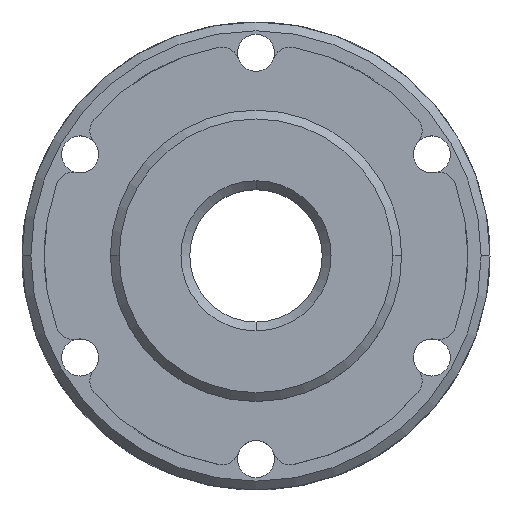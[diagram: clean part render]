
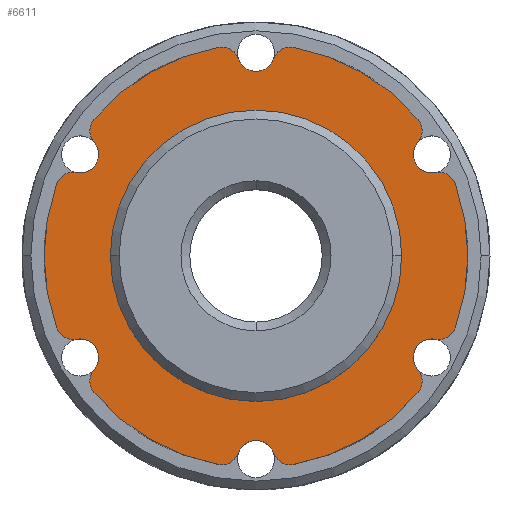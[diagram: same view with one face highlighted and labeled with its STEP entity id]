
A CAD part, top view. The second image highlights one B-rep face of the part: STEP entity #6611.
In plain terms, the highlighted planar face has unit normal (0, 0, 1).
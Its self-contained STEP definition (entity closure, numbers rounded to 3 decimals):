
#1884=CARTESIAN_POINT('',(0.,0.,21.));
#1885=DIRECTION('',(0.,0.,1.));
#1886=DIRECTION('',(1.,0.,0.));
#1887=AXIS2_PLACEMENT_3D('',#1884,#1885,#1886);
#1892=CARTESIAN_POINT('',(0.,0.,21.));
#1893=DIRECTION('',(0.,0.,1.));
#1894=DIRECTION('',(-1.,0.,0.));
#1895=AXIS2_PLACEMENT_3D('',#1892,#1893,#1894);
#1900=CARTESIAN_POINT('',(-20.692,7.474,21.));
#1901=DIRECTION('',(0.,0.,1.));
#1902=DIRECTION('',(0.189,0.982,0.));
#1903=AXIS2_PLACEMENT_3D('',#1900,#1901,#1902);
#1908=CARTESIAN_POINT('',(-19.919,11.5,21.));
#1909=DIRECTION('',(0.,0.,-1.));
#1910=DIRECTION('',(0.756,0.654,0.));
#1911=AXIS2_PLACEMENT_3D('',#1908,#1909,#1910);
#1916=CARTESIAN_POINT('',(-16.818,14.183,21.));
#1917=DIRECTION('',(0.,0.,1.));
#1918=DIRECTION('',(-0.764,0.645,0.));
#1919=AXIS2_PLACEMENT_3D('',#1916,#1917,#1918);
#1924=CARTESIAN_POINT('',(-3.874,21.656,21.));
#1925=DIRECTION('',(0.,0.,1.));
#1926=DIRECTION('',(0.945,0.328,0.));
#1927=AXIS2_PLACEMENT_3D('',#1924,#1925,#1926);
#1932=CARTESIAN_POINT('',(0.,23.,21.));
#1933=DIRECTION('',(0.,0.,-1.));
#1934=DIRECTION('',(0.945,-0.328,0.));
#1935=AXIS2_PLACEMENT_3D('',#1932,#1933,#1934);
#1940=CARTESIAN_POINT('',(3.874,21.656,21.));
#1941=DIRECTION('',(0.,0.,1.));
#1942=DIRECTION('',(0.176,0.984,0.));
#1943=AXIS2_PLACEMENT_3D('',#1940,#1941,#1942);
#1948=CARTESIAN_POINT('',(16.818,14.183,21.));
#1949=DIRECTION('',(0.,0.,1.));
#1950=DIRECTION('',(0.756,-0.654,0.));
#1951=AXIS2_PLACEMENT_3D('',#1948,#1949,#1950);
#1956=CARTESIAN_POINT('',(19.919,11.5,21.));
#1957=DIRECTION('',(0.,0.,-1.));
#1958=DIRECTION('',(0.189,-0.982,0.));
#1959=AXIS2_PLACEMENT_3D('',#1956,#1957,#1958);
#1964=CARTESIAN_POINT('',(20.692,7.474,21.));
#1965=DIRECTION('',(0.,0.,1.));
#1966=DIRECTION('',(0.941,0.34,0.));
#1967=AXIS2_PLACEMENT_3D('',#1964,#1965,#1966);
#1972=CARTESIAN_POINT('',(20.692,-7.474,21.));
#1973=DIRECTION('',(0.,0.,1.));
#1974=DIRECTION('',(-0.189,-0.982,0.));
#1975=AXIS2_PLACEMENT_3D('',#1972,#1973,#1974);
#1980=CARTESIAN_POINT('',(19.919,-11.5,21.));
#1981=DIRECTION('',(0.,0.,-1.));
#1982=DIRECTION('',(-0.756,-0.654,0.));
#1983=AXIS2_PLACEMENT_3D('',#1980,#1981,#1982);
#1988=CARTESIAN_POINT('',(16.818,-14.183,21.));
#1989=DIRECTION('',(0.,0.,1.));
#1990=DIRECTION('',(0.764,-0.645,0.));
#1991=AXIS2_PLACEMENT_3D('',#1988,#1989,#1990);
#1996=CARTESIAN_POINT('',(3.874,-21.656,21.));
#1997=DIRECTION('',(0.,0.,1.));
#1998=DIRECTION('',(-0.945,-0.328,0.));
#1999=AXIS2_PLACEMENT_3D('',#1996,#1997,#1998);
#2004=CARTESIAN_POINT('',(0.,-23.,21.));
#2005=DIRECTION('',(0.,0.,-1.));
#2006=DIRECTION('',(-0.945,0.328,0.));
#2007=AXIS2_PLACEMENT_3D('',#2004,#2005,#2006);
#2012=CARTESIAN_POINT('',(-3.874,-21.656,21.));
#2013=DIRECTION('',(0.,0.,1.));
#2014=DIRECTION('',(-0.176,-0.984,0.));
#2015=AXIS2_PLACEMENT_3D('',#2012,#2013,#2014);
#2020=CARTESIAN_POINT('',(-16.818,-14.183,21.));
#2021=DIRECTION('',(0.,0.,1.));
#2022=DIRECTION('',(-0.756,0.654,0.));
#2023=AXIS2_PLACEMENT_3D('',#2020,#2021,#2022);
#2028=CARTESIAN_POINT('',(-19.919,-11.5,21.));
#2029=DIRECTION('',(0.,0.,-1.));
#2030=DIRECTION('',(-0.189,0.982,0.));
#2031=AXIS2_PLACEMENT_3D('',#2028,#2029,#2030);
#2036=CARTESIAN_POINT('',(-20.692,-7.474,21.));
#2037=DIRECTION('',(0.,0.,1.));
#2038=DIRECTION('',(-0.941,-0.34,0.));
#2039=AXIS2_PLACEMENT_3D('',#2036,#2037,#2038);
#2353=CARTESIAN_POINT('',(0.,0.,21.));
#2354=DIRECTION('',(0.,0.,1.));
#2355=DIRECTION('',(-0.941,0.34,0.));
#2356=AXIS2_PLACEMENT_3D('',#2353,#2354,#2355);
#2398=CARTESIAN_POINT('',(0.,0.,21.));
#2399=DIRECTION('',(0.,0.,1.));
#2400=DIRECTION('',(-0.176,0.984,0.));
#2401=AXIS2_PLACEMENT_3D('',#2398,#2399,#2400);
#2413=CARTESIAN_POINT('',(0.,0.,21.));
#2414=DIRECTION('',(0.,0.,1.));
#2415=DIRECTION('',(-0.764,-0.645,0.));
#2416=AXIS2_PLACEMENT_3D('',#2413,#2414,#2415);
#2443=CARTESIAN_POINT('',(0.,0.,21.));
#2444=DIRECTION('',(0.,0.,1.));
#2445=DIRECTION('',(0.176,-0.984,0.));
#2446=AXIS2_PLACEMENT_3D('',#2443,#2444,#2445);
#2473=CARTESIAN_POINT('',(0.,0.,21.));
#2474=DIRECTION('',(0.,0.,1.));
#2475=DIRECTION('',(0.941,-0.34,0.));
#2476=AXIS2_PLACEMENT_3D('',#2473,#2474,#2475);
#2503=CARTESIAN_POINT('',(0.,0.,21.));
#2504=DIRECTION('',(0.,0.,1.));
#2505=DIRECTION('',(0.764,0.645,0.));
#2506=AXIS2_PLACEMENT_3D('',#2503,#2504,#2505);
#4112=CARTESIAN_POINT('',(16.5,0.,21.));
#4113=CARTESIAN_POINT('',(-16.5,0.,21.));
#4114=VERTEX_POINT('',#4112);
#4115=VERTEX_POINT('',#4113);
#4192=CARTESIAN_POINT('',(-20.315,9.438,21.));
#4194=VERTEX_POINT('',#4192);
#4196=CARTESIAN_POINT('',(-22.573,8.153,21.));
#4197=VERTEX_POINT('',#4196);
#4200=CARTESIAN_POINT('',(-18.347,15.472,21.));
#4201=CARTESIAN_POINT('',(-18.331,12.874,21.));
#4202=VERTEX_POINT('',#4200);
#4203=VERTEX_POINT('',#4201);
#4208=CARTESIAN_POINT('',(-18.331,-12.874,21.));
#4210=VERTEX_POINT('',#4208);
#4212=CARTESIAN_POINT('',(-18.347,-15.472,21.));
#4213=VERTEX_POINT('',#4212);
#4216=CARTESIAN_POINT('',(-22.573,-8.153,21.));
#4217=CARTESIAN_POINT('',(-20.315,-9.438,21.));
#4218=VERTEX_POINT('',#4216);
#4219=VERTEX_POINT('',#4217);
#4224=CARTESIAN_POINT('',(1.984,-22.312,21.));
#4226=VERTEX_POINT('',#4224);
#4228=CARTESIAN_POINT('',(4.226,-23.625,21.));
#4229=VERTEX_POINT('',#4228);
#4232=CARTESIAN_POINT('',(-4.226,-23.625,21.));
#4233=CARTESIAN_POINT('',(-1.984,-22.312,21.));
#4234=VERTEX_POINT('',#4232);
#4235=VERTEX_POINT('',#4233);
#4240=CARTESIAN_POINT('',(20.315,-9.438,21.));
#4242=VERTEX_POINT('',#4240);
#4244=CARTESIAN_POINT('',(22.573,-8.153,21.));
#4245=VERTEX_POINT('',#4244);
#4248=CARTESIAN_POINT('',(18.347,-15.472,21.));
#4249=CARTESIAN_POINT('',(18.331,-12.874,21.));
#4250=VERTEX_POINT('',#4248);
#4251=VERTEX_POINT('',#4249);
#4256=CARTESIAN_POINT('',(18.331,12.874,21.));
#4258=VERTEX_POINT('',#4256);
#4260=CARTESIAN_POINT('',(18.347,15.472,21.));
#4261=VERTEX_POINT('',#4260);
#4264=CARTESIAN_POINT('',(22.573,8.153,21.));
#4265=CARTESIAN_POINT('',(20.315,9.438,21.));
#4266=VERTEX_POINT('',#4264);
#4267=VERTEX_POINT('',#4265);
#4272=CARTESIAN_POINT('',(-1.984,22.312,21.));
#4274=VERTEX_POINT('',#4272);
#4276=CARTESIAN_POINT('',(-4.226,23.625,21.));
#4277=VERTEX_POINT('',#4276);
#4280=CARTESIAN_POINT('',(4.226,23.625,21.));
#4281=CARTESIAN_POINT('',(1.984,22.312,21.));
#4282=VERTEX_POINT('',#4280);
#4283=VERTEX_POINT('',#4281);
#6552=CARTESIAN_POINT('',(0.,0.,21.));
#6553=DIRECTION('',(0.,0.,1.));
#6554=DIRECTION('',(1.,0.,0.));
#6555=AXIS2_PLACEMENT_3D('',#6552,#6553,#6554);
#6556=PLANE('',#6555);
#6558=ORIENTED_EDGE('',*,*,#6557,.F.);
#6560=ORIENTED_EDGE('',*,*,#6559,.F.);
#6562=ORIENTED_EDGE('',*,*,#6561,.F.);
#6564=ORIENTED_EDGE('',*,*,#6563,.F.);
#6566=ORIENTED_EDGE('',*,*,#6565,.F.);
#6568=ORIENTED_EDGE('',*,*,#6567,.F.);
#6570=ORIENTED_EDGE('',*,*,#6569,.F.);
#6572=ORIENTED_EDGE('',*,*,#6571,.F.);
#6574=ORIENTED_EDGE('',*,*,#6573,.F.);
#6576=ORIENTED_EDGE('',*,*,#6575,.F.);
#6578=ORIENTED_EDGE('',*,*,#6577,.F.);
#6580=ORIENTED_EDGE('',*,*,#6579,.F.);
#6582=ORIENTED_EDGE('',*,*,#6581,.F.);
#6584=ORIENTED_EDGE('',*,*,#6583,.F.);
#6586=ORIENTED_EDGE('',*,*,#6585,.F.);
#6588=ORIENTED_EDGE('',*,*,#6587,.F.);
#6590=ORIENTED_EDGE('',*,*,#6589,.F.);
#6591=ORIENTED_EDGE('',*,*,#6529,.F.);
#6592=ORIENTED_EDGE('',*,*,#6543,.F.);
#6594=ORIENTED_EDGE('',*,*,#6593,.F.);
#6596=ORIENTED_EDGE('',*,*,#6595,.F.);
#6598=ORIENTED_EDGE('',*,*,#6597,.F.);
#6600=ORIENTED_EDGE('',*,*,#6599,.F.);
#6602=ORIENTED_EDGE('',*,*,#6601,.F.);
#6603=EDGE_LOOP('',(#6558,#6560,#6562,#6564,#6566,#6568,#6570,#6572,#6574,#6576,
#6578,#6580,#6582,#6584,#6586,#6588,#6590,#6591,#6592,#6594,#6596,#6598,#6600,
#6602));
#6604=FACE_OUTER_BOUND('',#6603,.F.);
#6606=ORIENTED_EDGE('',*,*,#6605,.T.);
#6608=ORIENTED_EDGE('',*,*,#6607,.T.);
#6609=EDGE_LOOP('',(#6606,#6608));
#6610=FACE_BOUND('',#6609,.F.);
#1888=CIRCLE('',#1887,16.5);
#1896=CIRCLE('',#1895,16.5);
#1904=CIRCLE('',#1903,2.);
#1912=CIRCLE('',#1911,2.1);
#1920=CIRCLE('',#1919,2.);
#1928=CIRCLE('',#1927,2.);
#1936=CIRCLE('',#1935,2.1);
#1944=CIRCLE('',#1943,2.);
#1952=CIRCLE('',#1951,2.);
#1960=CIRCLE('',#1959,2.1);
#1968=CIRCLE('',#1967,2.);
#1976=CIRCLE('',#1975,2.);
#1984=CIRCLE('',#1983,2.1);
#1992=CIRCLE('',#1991,2.);
#2000=CIRCLE('',#1999,2.);
#2008=CIRCLE('',#2007,2.1);
#2016=CIRCLE('',#2015,2.);
#2024=CIRCLE('',#2023,2.);
#2032=CIRCLE('',#2031,2.1);
#2040=CIRCLE('',#2039,2.);
#2357=CIRCLE('',#2356,24.);
#2402=CIRCLE('',#2401,24.);
#2417=CIRCLE('',#2416,24.);
#2447=CIRCLE('',#2446,24.);
#2477=CIRCLE('',#2476,24.);
#2507=CIRCLE('',#2506,24.);
#6529=EDGE_CURVE('',#4235,#4226,#2008,.T.);
#6543=EDGE_CURVE('',#4234,#4235,#2016,.T.);
#6557=EDGE_CURVE('',#4194,#4197,#1904,.T.);
#6559=EDGE_CURVE('',#4203,#4194,#1912,.T.);
#6561=EDGE_CURVE('',#4202,#4203,#1920,.T.);
#6563=EDGE_CURVE('',#4277,#4202,#2402,.T.);
#6565=EDGE_CURVE('',#4274,#4277,#1928,.T.);
#6567=EDGE_CURVE('',#4283,#4274,#1936,.T.);
#6569=EDGE_CURVE('',#4282,#4283,#1944,.T.);
#6571=EDGE_CURVE('',#4261,#4282,#2507,.T.);
#6573=EDGE_CURVE('',#4258,#4261,#1952,.T.);
#6575=EDGE_CURVE('',#4267,#4258,#1960,.T.);
#6577=EDGE_CURVE('',#4266,#4267,#1968,.T.);
#6579=EDGE_CURVE('',#4245,#4266,#2477,.T.);
#6581=EDGE_CURVE('',#4242,#4245,#1976,.T.);
#6583=EDGE_CURVE('',#4251,#4242,#1984,.T.);
#6585=EDGE_CURVE('',#4250,#4251,#1992,.T.);
#6587=EDGE_CURVE('',#4229,#4250,#2447,.T.);
#6589=EDGE_CURVE('',#4226,#4229,#2000,.T.);
#6593=EDGE_CURVE('',#4213,#4234,#2417,.T.);
#6595=EDGE_CURVE('',#4210,#4213,#2024,.T.);
#6597=EDGE_CURVE('',#4219,#4210,#2032,.T.);
#6599=EDGE_CURVE('',#4218,#4219,#2040,.T.);
#6601=EDGE_CURVE('',#4197,#4218,#2357,.T.);
#6605=EDGE_CURVE('',#4114,#4115,#1888,.T.);
#6607=EDGE_CURVE('',#4115,#4114,#1896,.T.);
#6611=ADVANCED_FACE('',(#6604,#6610),#6556,.T.);
